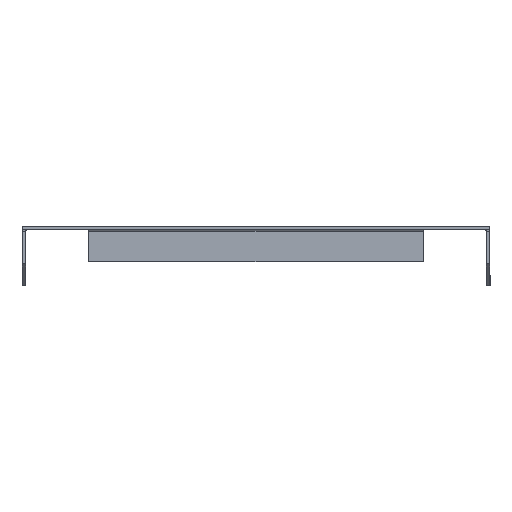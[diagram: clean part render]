
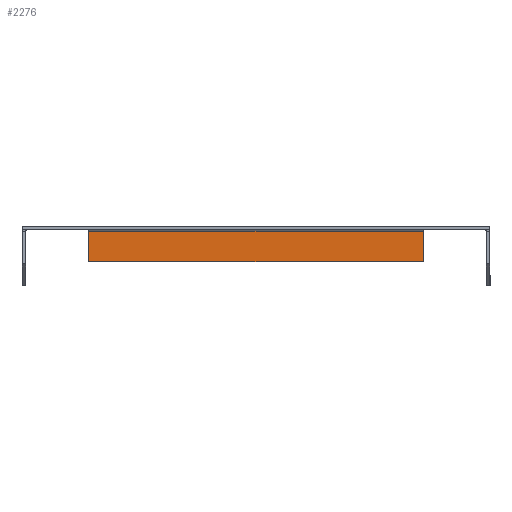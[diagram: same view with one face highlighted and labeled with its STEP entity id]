
A CAD part, left-side view. The second image highlights one B-rep face of the part: STEP entity #2276.
In plain terms, the highlighted planar face has unit normal (-1, 0, 0).
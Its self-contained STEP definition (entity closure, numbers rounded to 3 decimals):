
#92 = VERTEX_POINT ( 'NONE', #1546 ) ;
#110 = LINE ( 'NONE', #1502, #1642 ) ;
#186 = ORIENTED_EDGE ( 'NONE', *, *, #1356, .F. ) ;
#251 = EDGE_CURVE ( 'NONE', #1201, #1767, #1526, .T. ) ;
#704 = EDGE_CURVE ( 'NONE', #1767, #1982, #110, .T. ) ;
#746 = CARTESIAN_POINT ( 'NONE',  ( 37., 168., -2.237 ) ) ;
#758 = ORIENTED_EDGE ( 'NONE', *, *, #704, .T. ) ;
#817 = DIRECTION ( 'NONE',  ( 0., 0., -1. ) ) ;
#871 = DIRECTION ( 'NONE',  ( 0., 0., 1. ) ) ;
#899 = CARTESIAN_POINT ( 'NONE',  ( 37., 28., -1.5 ) ) ;
#1006 = DIRECTION ( 'NONE',  ( 0., 0., -1. ) ) ;
#1022 = DIRECTION ( 'NONE',  ( 1., 0., 0. ) ) ;
#1089 = CARTESIAN_POINT ( 'NONE',  ( 37., 28., -1.5 ) ) ;
#1116 = VECTOR ( 'NONE', #871, 1000. ) ;
#1134 = PLANE ( 'NONE',  #1555 ) ;
#1141 = CARTESIAN_POINT ( 'NONE',  ( 37., 168., -15. ) ) ;
#1201 = VERTEX_POINT ( 'NONE', #746 ) ;
#1324 = FACE_OUTER_BOUND ( 'NONE', #1611, .T. ) ;
#1356 = EDGE_CURVE ( 'NONE', #1201, #92, #1733, .T. ) ;
#1381 = DIRECTION ( 'NONE',  ( 0., -1., 0. ) ) ;
#1425 = CARTESIAN_POINT ( 'NONE',  ( 37., 168., -2.237 ) ) ;
#1502 = CARTESIAN_POINT ( 'NONE',  ( 37., 28., -15. ) ) ;
#1526 = LINE ( 'NONE', #1141, #2046 ) ;
#1539 = DIRECTION ( 'NONE',  ( 0., -1., 0. ) ) ;
#1546 = CARTESIAN_POINT ( 'NONE',  ( 37., 28., -2.237 ) ) ;
#1555 = AXIS2_PLACEMENT_3D ( 'NONE', #1089, #1022, #1006 ) ;
#1611 = EDGE_LOOP ( 'NONE', ( #186, #2221, #758, #2080 ) ) ;
#1642 = VECTOR ( 'NONE', #1539, 1000. ) ;
#1733 = LINE ( 'NONE', #1425, #2181 ) ;
#1767 = VERTEX_POINT ( 'NONE', #1871 ) ;
#1871 = CARTESIAN_POINT ( 'NONE',  ( 37., 168., -15. ) ) ;
#1982 = VERTEX_POINT ( 'NONE', #2054 ) ;
#2046 = VECTOR ( 'NONE', #817, 1000. ) ;
#2054 = CARTESIAN_POINT ( 'NONE',  ( 37., 28., -15. ) ) ;
#2080 = ORIENTED_EDGE ( 'NONE', *, *, #2105, .T. ) ;
#2105 = EDGE_CURVE ( 'NONE', #1982, #92, #2324, .T. ) ;
#2181 = VECTOR ( 'NONE', #1381, 1000. ) ;
#2221 = ORIENTED_EDGE ( 'NONE', *, *, #251, .T. ) ;
#2276 = ADVANCED_FACE ( 'NONE', ( #1324 ), #1134, .F. ) ;
#2324 = LINE ( 'NONE', #899, #1116 ) ;
